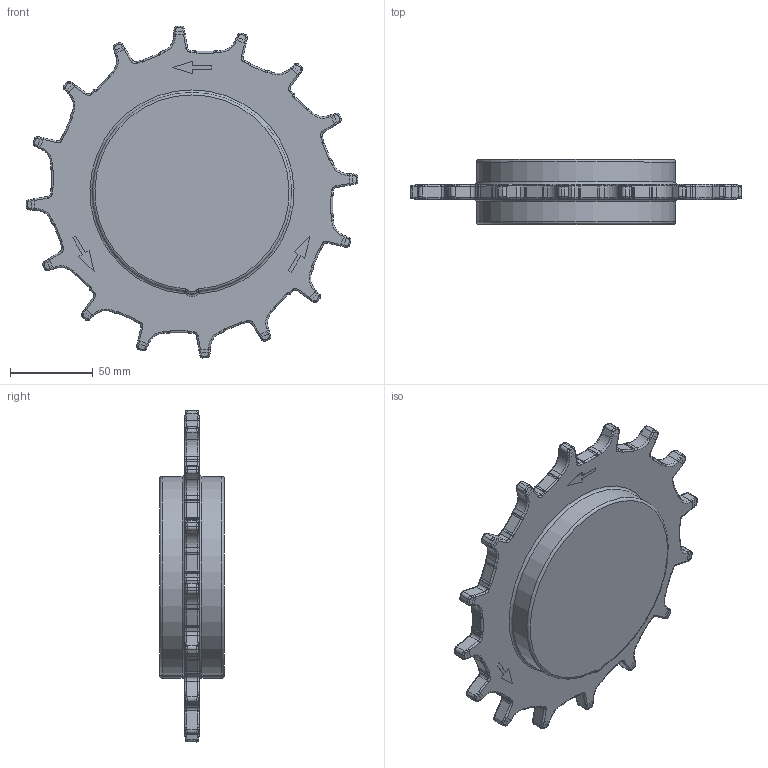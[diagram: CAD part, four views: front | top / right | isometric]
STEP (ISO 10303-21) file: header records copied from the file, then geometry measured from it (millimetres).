
FILE_DESCRIPTION((''),'2;1');
FILE_NAME('82Z16BB','2011-12-12T',('mth'),(''),'PRO/ENGINEER BY PARAMETRIC TECHNOLOGY CORPORATION, 2010280','PRO/ENGINEER BY PARAMETRIC TECHNOLOGY CORPORATION, 2010280','');
FILE_SCHEMA(('CONFIG_CONTROL_DESIGN','SHAPE_APPEARANCE_LAYERS_GROUPS'));
Products named in the file (1): 82Z16BB
Bounding box: 200.05 x 39 x 200.05 mm (x, y, z)
Volume: 563692.4 mm3; surface area: 67495.7 mm2
Topology: 1 solids, 1 shells, 1646 faces, 4125 edges, 2530 vertices
Faces by surface type: plane 828, cylinder 322, bspline 256, torus 204, cone 32, sphere 4
Entity records: 60058 total; most frequent: CARTESIAN_POINT 22332, ORIENTED_EDGE 8250, DIRECTION 7257, EDGE_CURVE 4125, VECTOR 2653, LINE 2653, VERTEX_POINT 2530, AXIS2_PLACEMENT_3D 2302
